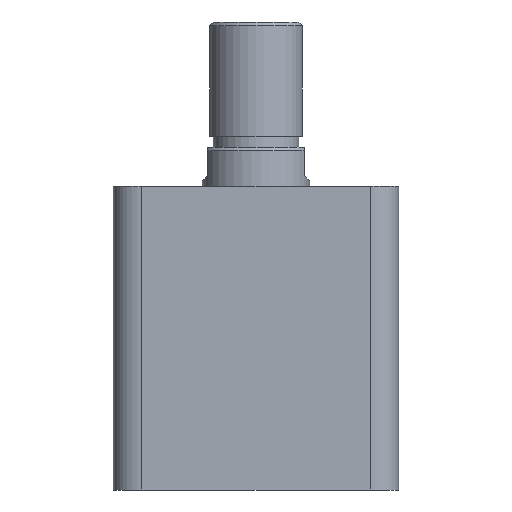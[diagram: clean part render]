
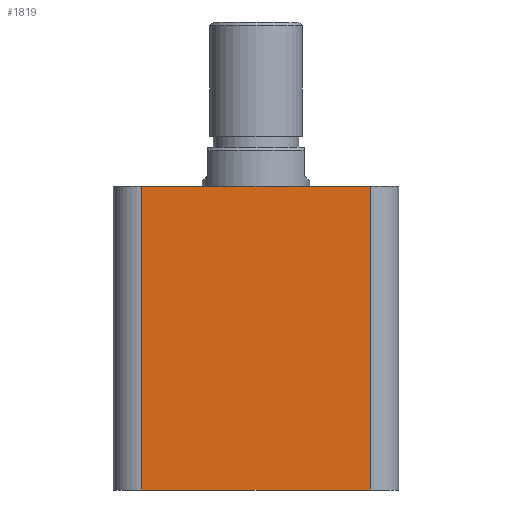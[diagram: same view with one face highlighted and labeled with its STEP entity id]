
A CAD part, front view. The second image highlights one B-rep face of the part: STEP entity #1819.
In plain terms, the highlighted planar face has unit normal (0, -1, 0).
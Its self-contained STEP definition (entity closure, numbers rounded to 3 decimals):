
#254 = VERTEX_POINT ( 'NONE', #2055 ) ;
#305 = VERTEX_POINT ( 'NONE', #1235 ) ;
#326 = VERTEX_POINT ( 'NONE', #1159 ) ;
#356 = VERTEX_POINT ( 'NONE', #1111 ) ;
#574 = FACE_OUTER_BOUND ( 'NONE', #1621, .T. ) ;
#654 = VECTOR ( 'NONE', #1044, 1000. ) ;
#658 = LINE ( 'NONE', #1046, #654 ) ;
#897 = DIRECTION ( 'NONE',  ( 0., 0., 1. ) ) ;
#898 = DIRECTION ( 'NONE',  ( 0., 1., 0. ) ) ;
#899 = PLANE ( 'NONE',  #1451 ) ;
#905 = CARTESIAN_POINT ( 'NONE',  ( -40., -40., 85. ) ) ;
#1044 = DIRECTION ( 'NONE',  ( 0., 0., 1. ) ) ;
#1046 = CARTESIAN_POINT ( 'NONE',  ( 32., -40., 85. ) ) ;
#1111 = CARTESIAN_POINT ( 'NONE',  ( 32., -40., 0. ) ) ;
#1156 = DIRECTION ( 'NONE',  ( 1., 0., 0. ) ) ;
#1158 = DIRECTION ( 'NONE',  ( 0., 0., -1. ) ) ;
#1159 = CARTESIAN_POINT ( 'NONE',  ( -32., -40., 0. ) ) ;
#1161 = CARTESIAN_POINT ( 'NONE',  ( -32., -40., 85. ) ) ;
#1167 = CARTESIAN_POINT ( 'NONE',  ( -40., -40., 0. ) ) ;
#1174 = DIRECTION ( 'NONE',  ( 1., 0., 0. ) ) ;
#1175 = CARTESIAN_POINT ( 'NONE',  ( -40., -40., 85. ) ) ;
#1235 = CARTESIAN_POINT ( 'NONE',  ( 32., -40., 85. ) ) ;
#1390 = EDGE_CURVE ( 'NONE', #254, #305, #1464, .T. ) ;
#1391 = EDGE_CURVE ( 'NONE', #254, #326, #1463, .T. ) ;
#1392 = EDGE_CURVE ( 'NONE', #326, #356, #1465, .T. ) ;
#1413 = EDGE_CURVE ( 'NONE', #356, #305, #658, .T. ) ;
#1451 = AXIS2_PLACEMENT_3D ( 'NONE', #905, #898, #897 ) ;
#1458 = VECTOR ( 'NONE', #1156, 1000. ) ;
#1460 = VECTOR ( 'NONE', #1158, 1000. ) ;
#1462 = VECTOR ( 'NONE', #1174, 1000. ) ;
#1463 = LINE ( 'NONE', #1161, #1460 ) ;
#1464 = LINE ( 'NONE', #1175, #1462 ) ;
#1465 = LINE ( 'NONE', #1167, #1458 ) ;
#1621 = EDGE_LOOP ( 'NONE', ( #1753, #1754, #1755, #1757 ) ) ;
#1753 = ORIENTED_EDGE ( 'NONE', *, *, #1390, .F. ) ;
#1754 = ORIENTED_EDGE ( 'NONE', *, *, #1391, .T. ) ;
#1755 = ORIENTED_EDGE ( 'NONE', *, *, #1392, .T. ) ;
#1757 = ORIENTED_EDGE ( 'NONE', *, *, #1413, .T. ) ;
#1819 = ADVANCED_FACE ( 'NONE', ( #574 ), #899, .F. ) ;
#2055 = CARTESIAN_POINT ( 'NONE',  ( -32., -40., 85. ) ) ;
